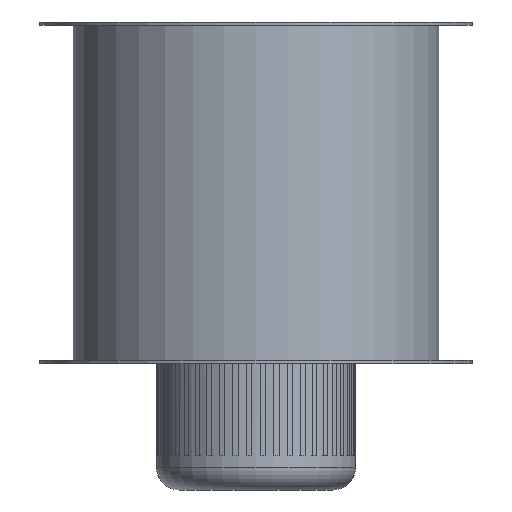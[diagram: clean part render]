
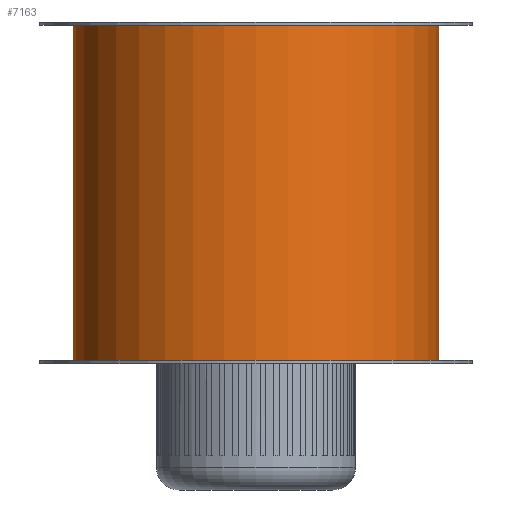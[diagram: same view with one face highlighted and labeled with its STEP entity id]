
A CAD part, front view. The second image highlights one B-rep face of the part: STEP entity #7163.
In plain terms, the highlighted cylindrical face has radius 160.5 mm (diameter 321 mm), a full revolution.
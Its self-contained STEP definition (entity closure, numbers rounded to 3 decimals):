
#405=FACE_BOUND('',#1285,.T.);
#406=FACE_BOUND('',#1286,.T.);
#804=FACE_OUTER_BOUND('',#1284,.T.);
#1284=EDGE_LOOP('',(#6530,#6531,#6532,#6533));
#1285=EDGE_LOOP('',(#6534,#6535));
#1286=EDGE_LOOP('',(#6536,#6537,#6538,#6539));
#1342=B_SPLINE_CURVE_WITH_KNOTS('',3,(#11386,#11387,#11388,#11389,#11390,
#11391,#11392,#11393,#11394,#11395),.UNSPECIFIED.,.F.,.F.,(4,2,2,2,4),(0.,
0.28,0.56,0.895,1.231),
 .UNSPECIFIED.);
#1343=B_SPLINE_CURVE_WITH_KNOTS('',3,(#11396,#11397,#11398,#11399,#11400,
#11401,#11402,#11403,#11404,#11405,#11406,#11407,#11408,#11409,#11410,#11411,
#11412,#11413,#11414,#11415,#11416,#11417,#11418,#11419,#11420,#11421),
 .UNSPECIFIED.,.F.,.F.,(4,2,2,2,2,2,2,2,2,2,2,2,4),(1.231,1.577,
1.922,2.204,2.485,2.766,3.047,
3.393,3.738,4.074,4.41,4.69,
4.969),.UNSPECIFIED.);
#1692=CIRCLE('',#7669,160.5);
#1693=CIRCLE('',#7671,160.5);
#1790=CIRCLE('',#7848,160.5);
#1793=CIRCLE('',#7853,160.5);
#2213=LINE('',#11486,#2737);
#2221=LINE('',#11501,#2745);
#2317=LINE('',#13632,#2841);
#2737=VECTOR('',#9240,10.);
#2745=VECTOR('',#9252,10.);
#2841=VECTOR('',#9724,160.5);
#3308=VERTEX_POINT('',#11384);
#3309=VERTEX_POINT('',#11385);
#3317=VERTEX_POINT('',#11482);
#3319=VERTEX_POINT('',#11485);
#3323=VERTEX_POINT('',#11497);
#3324=VERTEX_POINT('',#11499);
#3483=VERTEX_POINT('',#13619);
#3486=VERTEX_POINT('',#13628);
#4163=EDGE_CURVE('',#3308,#3309,#1342,.T.);
#4164=EDGE_CURVE('',#3309,#3308,#1343,.T.);
#4179=EDGE_CURVE('',#3319,#3317,#2213,.T.);
#4187=EDGE_CURVE('',#3323,#3324,#2221,.T.);
#4188=EDGE_CURVE('',#3317,#3323,#1692,.T.);
#4189=EDGE_CURVE('',#3324,#3319,#1693,.T.);
#4502=EDGE_CURVE('',#3483,#3483,#1790,.T.);
#4506=EDGE_CURVE('',#3486,#3486,#1793,.T.);
#4507=EDGE_CURVE('',#3486,#3483,#2317,.T.);
#6530=ORIENTED_EDGE('',*,*,#4506,.T.);
#6531=ORIENTED_EDGE('',*,*,#4507,.T.);
#6532=ORIENTED_EDGE('',*,*,#4502,.T.);
#6533=ORIENTED_EDGE('',*,*,#4507,.F.);
#6534=ORIENTED_EDGE('',*,*,#4163,.T.);
#6535=ORIENTED_EDGE('',*,*,#4164,.T.);
#6536=ORIENTED_EDGE('',*,*,#4187,.T.);
#6537=ORIENTED_EDGE('',*,*,#4189,.T.);
#6538=ORIENTED_EDGE('',*,*,#4179,.T.);
#6539=ORIENTED_EDGE('',*,*,#4188,.T.);
#6639=CYLINDRICAL_SURFACE('',#7855,160.5);
#7163=ADVANCED_FACE('',(#804,#405,#406),#6639,.T.);
#7669=AXIS2_PLACEMENT_3D('',#11503,#9255,#9256);
#7671=AXIS2_PLACEMENT_3D('',#11505,#9259,#9260);
#7848=AXIS2_PLACEMENT_3D('',#13620,#9707,#9708);
#7853=AXIS2_PLACEMENT_3D('',#13629,#9718,#9719);
#7855=AXIS2_PLACEMENT_3D('',#13631,#9722,#9723);
#9240=DIRECTION('',(0.,0.,-1.));
#9252=DIRECTION('',(0.,0.,1.));
#9255=DIRECTION('center_axis',(0.,0.,-1.));
#9256=DIRECTION('ref_axis',(-1.,0.,0.));
#9259=DIRECTION('center_axis',(0.,0.,1.));
#9260=DIRECTION('ref_axis',(-1.,0.,0.));
#9707=DIRECTION('center_axis',(0.,0.,1.));
#9708=DIRECTION('ref_axis',(-1.,0.,0.));
#9718=DIRECTION('center_axis',(0.,0.,-1.));
#9719=DIRECTION('ref_axis',(-1.,0.,0.));
#9722=DIRECTION('center_axis',(0.,0.,1.));
#9723=DIRECTION('ref_axis',(-1.,0.,0.));
#9724=DIRECTION('',(0.,0.,-1.));
#11384=CARTESIAN_POINT('',(-80.,139.141,-88.));
#11385=CARTESIAN_POINT('',(-87.5,134.551,-80.5));
#11386=CARTESIAN_POINT('Ctrl Pts',(-80.,139.141,-88.));
#11387=CARTESIAN_POINT('Ctrl Pts',(-80.,139.141,-87.067));
#11388=CARTESIAN_POINT('Ctrl Pts',(-80.185,139.035,-86.083));
#11389=CARTESIAN_POINT('Ctrl Pts',(-80.907,138.616,-84.297));
#11390=CARTESIAN_POINT('Ctrl Pts',(-81.443,138.303,-83.494));
#11391=CARTESIAN_POINT('Ctrl Pts',(-82.744,137.529,-82.109));
#11392=CARTESIAN_POINT('Ctrl Pts',(-83.635,136.992,-81.49));
#11393=CARTESIAN_POINT('Ctrl Pts',(-85.543,135.808,-80.686));
#11394=CARTESIAN_POINT('Ctrl Pts',(-86.562,135.161,-80.5));
#11395=CARTESIAN_POINT('Ctrl Pts',(-87.5,134.551,-80.5));
#11396=CARTESIAN_POINT('Ctrl Pts',(-87.5,134.551,-80.5));
#11397=CARTESIAN_POINT('Ctrl Pts',(-88.466,133.923,-80.5));
#11398=CARTESIAN_POINT('Ctrl Pts',(-89.498,133.236,-80.696));
#11399=CARTESIAN_POINT('Ctrl Pts',(-91.413,131.929,-81.517));
#11400=CARTESIAN_POINT('Ctrl Pts',(-92.297,131.31,-82.142));
#11401=CARTESIAN_POINT('Ctrl Pts',(-93.575,130.401,-83.522));
#11402=CARTESIAN_POINT('Ctrl Pts',(-94.1,130.022,-84.312));
#11403=CARTESIAN_POINT('Ctrl Pts',(-94.813,129.503,-86.082));
#11404=CARTESIAN_POINT('Ctrl Pts',(-95.,129.365,-87.063));
#11405=CARTESIAN_POINT('Ctrl Pts',(-95.,129.365,-88.937));
#11406=CARTESIAN_POINT('Ctrl Pts',(-94.813,129.503,-89.918));
#11407=CARTESIAN_POINT('Ctrl Pts',(-94.1,130.022,-91.688));
#11408=CARTESIAN_POINT('Ctrl Pts',(-93.575,130.401,-92.478));
#11409=CARTESIAN_POINT('Ctrl Pts',(-92.297,131.31,-93.858));
#11410=CARTESIAN_POINT('Ctrl Pts',(-91.413,131.929,-94.483));
#11411=CARTESIAN_POINT('Ctrl Pts',(-89.498,133.236,-95.304));
#11412=CARTESIAN_POINT('Ctrl Pts',(-88.466,133.923,-95.5));
#11413=CARTESIAN_POINT('Ctrl Pts',(-86.562,135.161,-95.5));
#11414=CARTESIAN_POINT('Ctrl Pts',(-85.543,135.808,-95.314));
#11415=CARTESIAN_POINT('Ctrl Pts',(-83.635,136.992,-94.51));
#11416=CARTESIAN_POINT('Ctrl Pts',(-82.744,137.529,-93.891));
#11417=CARTESIAN_POINT('Ctrl Pts',(-81.443,138.303,-92.506));
#11418=CARTESIAN_POINT('Ctrl Pts',(-80.907,138.616,-91.703));
#11419=CARTESIAN_POINT('Ctrl Pts',(-80.185,139.035,-89.917));
#11420=CARTESIAN_POINT('Ctrl Pts',(-80.,139.141,-88.933));
#11421=CARTESIAN_POINT('Ctrl Pts',(-80.,139.141,-88.));
#11482=CARTESIAN_POINT('',(-58.333,149.524,-138.));
#11485=CARTESIAN_POINT('',(-58.333,149.524,-38.));
#11486=CARTESIAN_POINT('',(-58.333,149.524,0.));
#11497=CARTESIAN_POINT('',(58.333,149.524,-138.));
#11499=CARTESIAN_POINT('',(58.333,149.524,-38.));
#11501=CARTESIAN_POINT('',(58.333,149.524,0.));
#11503=CARTESIAN_POINT('Origin',(0.,0.,-138.));
#11505=CARTESIAN_POINT('Origin',(0.,0.,-38.));
#13619=CARTESIAN_POINT('',(160.5,0.,-147.));
#13620=CARTESIAN_POINT('Origin',(0.,0.,-147.));
#13628=CARTESIAN_POINT('',(160.5,0.,147.));
#13629=CARTESIAN_POINT('Origin',(0.,0.,147.));
#13631=CARTESIAN_POINT('Origin',(0.,0.,0.));
#13632=CARTESIAN_POINT('',(160.5,0.,0.));
